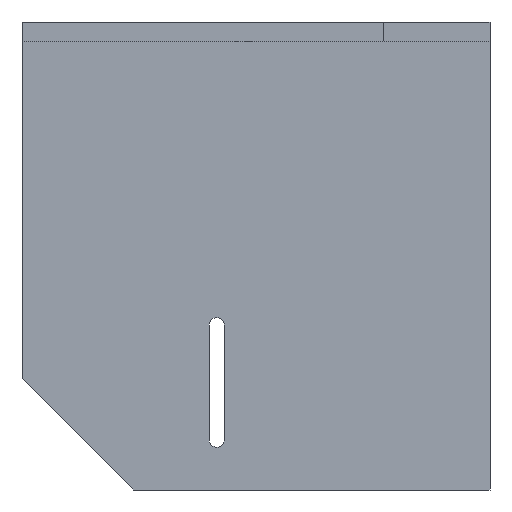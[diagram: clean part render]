
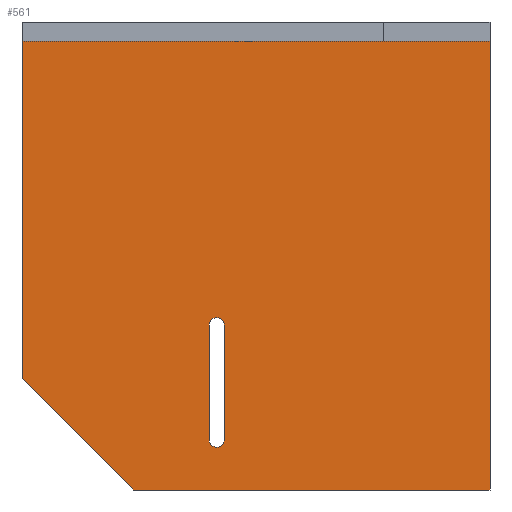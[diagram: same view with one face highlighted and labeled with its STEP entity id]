
A CAD part, front view. The second image highlights one B-rep face of the part: STEP entity #561.
In plain terms, the highlighted planar face has unit normal (0, -1, 0).
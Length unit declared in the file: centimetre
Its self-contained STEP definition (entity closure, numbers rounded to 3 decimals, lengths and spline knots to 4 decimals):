
#15 = CIRCLE ( 'NONE', #545, 16.3143 ) ;
#18 = VERTEX_POINT ( 'NONE', #580 ) ;
#23 = VERTEX_POINT ( 'NONE', #282 ) ;
#25 = LINE ( 'NONE', #286, #337 ) ;
#29 = ORIENTED_EDGE ( 'NONE', *, *, #724, .T. ) ;
#35 = EDGE_LOOP ( 'NONE', ( #504, #785, #90, #843, #758 ) ) ;
#42 = CARTESIAN_POINT ( 'NONE',  ( 0., 0., 237.1883 ) ) ;
#54 = VECTOR ( 'NONE', #169, 100. ) ;
#70 = DIRECTION ( 'NONE',  ( 0., 1., 0. ) ) ;
#90 = ORIENTED_EDGE ( 'NONE', *, *, #625, .T. ) ;
#117 = CARTESIAN_POINT ( 'NONE',  ( 416., 0., 107.9125 ) ) ;
#120 = EDGE_LOOP ( 'NONE', ( #840, #29, #240, #192, #352 ) ) ;
#121 = DIRECTION ( 'NONE',  ( 0., 1., 0. ) ) ;
#129 = EDGE_CURVE ( 'NONE', #301, #18, #619, .T. ) ;
#131 = DIRECTION ( 'NONE',  ( 0., 0., 1. ) ) ;
#152 = VERTEX_POINT ( 'NONE', #616 ) ;
#166 = CIRCLE ( 'NONE', #754, 16.3143 ) ;
#169 = DIRECTION ( 'NONE',  ( 1., 0., 0. ) ) ;
#173 = DIRECTION ( 'NONE',  ( 0., 1., 0. ) ) ;
#192 = ORIENTED_EDGE ( 'NONE', *, *, #430, .T. ) ;
#217 = CARTESIAN_POINT ( 'NONE',  ( 432.3143, 0., 351.9 ) ) ;
#220 = CARTESIAN_POINT ( 'NONE',  ( 0., 0., 1000. ) ) ;
#226 = VERTEX_POINT ( 'NONE', #575 ) ;
#232 = DIRECTION ( 'NONE',  ( 0., 0., 1. ) ) ;
#240 = ORIENTED_EDGE ( 'NONE', *, *, #789, .T. ) ;
#242 = CARTESIAN_POINT ( 'NONE',  ( 1000., 0., 958.5294 ) ) ;
#246 = DIRECTION ( 'NONE',  ( 0., 0., 1. ) ) ;
#250 = LINE ( 'NONE', #847, #376 ) ;
#257 = CIRCLE ( 'NONE', #636, 16.3143 ) ;
#269 = VECTOR ( 'NONE', #768, 100. ) ;
#282 = CARTESIAN_POINT ( 'NONE',  ( 399.6857, 0., 351.9 ) ) ;
#286 = CARTESIAN_POINT ( 'NONE',  ( 1000., 0., 1000. ) ) ;
#301 = VERTEX_POINT ( 'NONE', #829 ) ;
#309 = EDGE_CURVE ( 'NONE', #152, #425, #562, .T. ) ;
#333 = PLANE ( 'NONE',  #383 ) ;
#337 = VECTOR ( 'NONE', #536, 100. ) ;
#352 = ORIENTED_EDGE ( 'NONE', *, *, #498, .T. ) ;
#376 = VECTOR ( 'NONE', #382, 100. ) ;
#382 = DIRECTION ( 'NONE',  ( 0., 0., 1. ) ) ;
#383 = AXIS2_PLACEMENT_3D ( 'NONE', #220, #760, #232 ) ;
#399 = CARTESIAN_POINT ( 'NONE',  ( 0., 0., 237.1883 ) ) ;
#404 = CARTESIAN_POINT ( 'NONE',  ( 0., 0., 958.5294 ) ) ;
#425 = VERTEX_POINT ( 'NONE', #533 ) ;
#430 = EDGE_CURVE ( 'NONE', #23, #226, #15, .T. ) ;
#447 = VERTEX_POINT ( 'NONE', #399 ) ;
#453 = LINE ( 'NONE', #648, #54 ) ;
#462 = FACE_OUTER_BOUND ( 'NONE', #35, .T. ) ;
#477 = CARTESIAN_POINT ( 'NONE',  ( 399.6857, 0., 107.9125 ) ) ;
#496 = CARTESIAN_POINT ( 'NONE',  ( 0., 0., 0. ) ) ;
#498 = EDGE_CURVE ( 'NONE', #226, #301, #257, .T. ) ;
#504 = ORIENTED_EDGE ( 'NONE', *, *, #615, .F. ) ;
#533 = CARTESIAN_POINT ( 'NONE',  ( 1000., 0., 0. ) ) ;
#536 = DIRECTION ( 'NONE',  ( 0., 0., -1. ) ) ;
#545 = AXIS2_PLACEMENT_3D ( 'NONE', #597, #70, #131 ) ;
#561 = ADVANCED_FACE ( 'NONE', ( #799, #462 ), #333, .F. ) ;
#562 = LINE ( 'NONE', #496, #269 ) ;
#575 = CARTESIAN_POINT ( 'NONE',  ( 416., 0., 368.2143 ) ) ;
#580 = CARTESIAN_POINT ( 'NONE',  ( 432.3143, 0., 107.9125 ) ) ;
#588 = VERTEX_POINT ( 'NONE', #404 ) ;
#590 = LINE ( 'NONE', #42, #626 ) ;
#597 = CARTESIAN_POINT ( 'NONE',  ( 416., 0., 351.9 ) ) ;
#604 = CARTESIAN_POINT ( 'NONE',  ( 0., 0., 1000. ) ) ;
#615 = EDGE_CURVE ( 'NONE', #838, #425, #25, .T. ) ;
#616 = CARTESIAN_POINT ( 'NONE',  ( 237.1883, 0., 0. ) ) ;
#619 = LINE ( 'NONE', #217, #810 ) ;
#625 = EDGE_CURVE ( 'NONE', #588, #447, #742, .T. ) ;
#626 = VECTOR ( 'NONE', #792, 100. ) ;
#636 = AXIS2_PLACEMENT_3D ( 'NONE', #669, #121, #863 ) ;
#648 = CARTESIAN_POINT ( 'NONE',  ( 0., 0., 958.5294 ) ) ;
#669 = CARTESIAN_POINT ( 'NONE',  ( 416., 0., 351.9 ) ) ;
#694 = VERTEX_POINT ( 'NONE', #477 ) ;
#718 = EDGE_CURVE ( 'NONE', #588, #838, #453, .T. ) ;
#724 = EDGE_CURVE ( 'NONE', #18, #694, #166, .T. ) ;
#742 = LINE ( 'NONE', #604, #834 ) ;
#754 = AXIS2_PLACEMENT_3D ( 'NONE', #117, #173, #246 ) ;
#758 = ORIENTED_EDGE ( 'NONE', *, *, #309, .T. ) ;
#760 = DIRECTION ( 'NONE',  ( 0., 1., 0. ) ) ;
#768 = DIRECTION ( 'NONE',  ( 1., 0., 0. ) ) ;
#785 = ORIENTED_EDGE ( 'NONE', *, *, #718, .F. ) ;
#789 = EDGE_CURVE ( 'NONE', #694, #23, #250, .T. ) ;
#792 = DIRECTION ( 'NONE',  ( 0.707, 0., -0.707 ) ) ;
#799 = FACE_BOUND ( 'NONE', #120, .T. ) ;
#805 = EDGE_CURVE ( 'NONE', #447, #152, #590, .T. ) ;
#810 = VECTOR ( 'NONE', #820, 100. ) ;
#820 = DIRECTION ( 'NONE',  ( 0., 0., -1. ) ) ;
#828 = DIRECTION ( 'NONE',  ( 0., 0., -1. ) ) ;
#829 = CARTESIAN_POINT ( 'NONE',  ( 432.3143, 0., 351.9 ) ) ;
#834 = VECTOR ( 'NONE', #828, 100. ) ;
#838 = VERTEX_POINT ( 'NONE', #242 ) ;
#840 = ORIENTED_EDGE ( 'NONE', *, *, #129, .T. ) ;
#843 = ORIENTED_EDGE ( 'NONE', *, *, #805, .T. ) ;
#847 = CARTESIAN_POINT ( 'NONE',  ( 399.6857, 0., 107.9125 ) ) ;
#863 = DIRECTION ( 'NONE',  ( 0., 0., 1. ) ) ;
